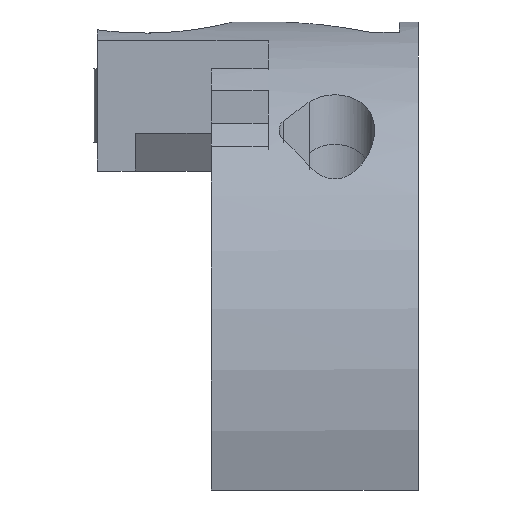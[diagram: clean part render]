
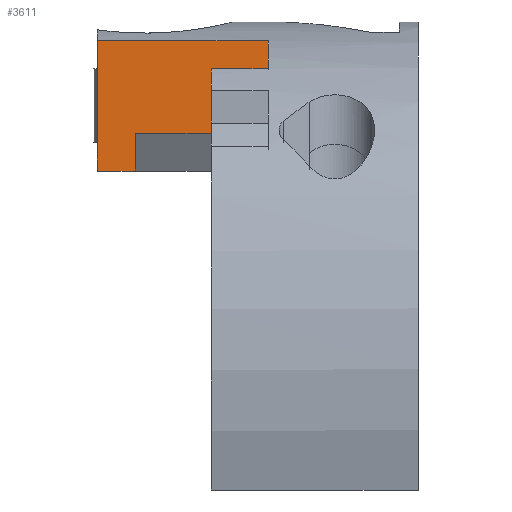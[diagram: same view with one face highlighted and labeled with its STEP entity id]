
A CAD part, front view. The second image highlights one B-rep face of the part: STEP entity #3611.
In plain terms, the highlighted planar face has unit normal (0, -1, 0).
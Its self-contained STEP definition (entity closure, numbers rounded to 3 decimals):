
#128 = PLANE('',#129);
#129 = AXIS2_PLACEMENT_3D('',#130,#131,#132);
#130 = CARTESIAN_POINT('',(185.,0.,0.));
#131 = DIRECTION('',(1.,0.,0.));
#132 = DIRECTION('',(-0.,0.,1.));
#271 = CYLINDRICAL_SURFACE('',#272,18.85);
#272 = AXIS2_PLACEMENT_3D('',#273,#274,#275);
#273 = CARTESIAN_POINT('',(194.,0.,0.));
#274 = DIRECTION('',(1.,0.,0.));
#275 = DIRECTION('',(-0.,0.,1.));
#1662 = PLANE('',#1663);
#1663 = AXIS2_PLACEMENT_3D('',#1664,#1665,#1666);
#1664 = CARTESIAN_POINT('',(185.,-6.,11.));
#1665 = DIRECTION('',(0.,0.,1.));
#1666 = DIRECTION('',(1.,0.,-0.));
#3070 = VERTEX_POINT('',#3071);
#3071 = CARTESIAN_POINT('',(185.,-6.,11.));
#3092 = EDGE_CURVE('',#3070,#3093,#3095,.T.);
#3093 = VERTEX_POINT('',#3094);
#3094 = CARTESIAN_POINT('',(187.,-6.,11.));
#3095 = SURFACE_CURVE('',#3096,(#3100,#3107),.PCURVE_S1.);
#3096 = LINE('',#3097,#3098);
#3097 = CARTESIAN_POINT('',(185.,-6.,11.));
#3098 = VECTOR('',#3099,1.);
#3099 = DIRECTION('',(1.,0.,-0.));
#3100 = PCURVE('',#1662,#3101);
#3101 = DEFINITIONAL_REPRESENTATION('',(#3102),#3106);
#3102 = LINE('',#3103,#3104);
#3103 = CARTESIAN_POINT('',(0.,0.));
#3104 = VECTOR('',#3105,1.);
#3105 = DIRECTION('',(1.,0.));
#3106 = ( GEOMETRIC_REPRESENTATION_CONTEXT(2) 
PARAMETRIC_REPRESENTATION_CONTEXT() REPRESENTATION_CONTEXT('2D SPACE',''
  ) );
#3107 = PCURVE('',#3108,#3113);
#3108 = PLANE('',#3109);
#3109 = AXIS2_PLACEMENT_3D('',#3110,#3111,#3112);
#3110 = CARTESIAN_POINT('',(185.,-6.,0.));
#3111 = DIRECTION('',(-0.,1.,0.));
#3112 = DIRECTION('',(0.,0.,1.));
#3113 = DEFINITIONAL_REPRESENTATION('',(#3114),#3118);
#3114 = LINE('',#3115,#3116);
#3115 = CARTESIAN_POINT('',(11.,0.));
#3116 = VECTOR('',#3117,1.);
#3117 = DIRECTION('',(0.,1.));
#3118 = ( GEOMETRIC_REPRESENTATION_CONTEXT(2) 
PARAMETRIC_REPRESENTATION_CONTEXT() REPRESENTATION_CONTEXT('2D SPACE',''
  ) );
#3136 = PLANE('',#3137);
#3137 = AXIS2_PLACEMENT_3D('',#3138,#3139,#3140);
#3138 = CARTESIAN_POINT('',(191.,-9.4,11.));
#3139 = DIRECTION('',(-0.648,-0.762,0.));
#3140 = DIRECTION('',(-0.762,0.648,0.));
#3611 = ADVANCED_FACE('',(#3612),#3108,.F.);
#3612 = FACE_BOUND('',#3613,.F.);
#3613 = EDGE_LOOP('',(#3614,#3644,#3671,#3699,#3720,#3721,#3744,#3766));
#3614 = ORIENTED_EDGE('',*,*,#3615,.T.);
#3615 = EDGE_CURVE('',#3616,#3618,#3620,.T.);
#3616 = VERTEX_POINT('',#3617);
#3617 = CARTESIAN_POINT('',(194.,-6.,15.746));
#3618 = VERTEX_POINT('',#3619);
#3619 = CARTESIAN_POINT('',(201.139,-6.,15.746));
#3620 = SURFACE_CURVE('',#3621,(#3625,#3632),.PCURVE_S1.);
#3621 = LINE('',#3622,#3623);
#3622 = CARTESIAN_POINT('',(194.,-6.,15.746));
#3623 = VECTOR('',#3624,1.);
#3624 = DIRECTION('',(1.,0.,0.));
#3625 = PCURVE('',#3108,#3626);
#3626 = DEFINITIONAL_REPRESENTATION('',(#3627),#3631);
#3627 = LINE('',#3628,#3629);
#3628 = CARTESIAN_POINT('',(15.746,9.));
#3629 = VECTOR('',#3630,1.);
#3630 = DIRECTION('',(0.,1.));
#3631 = ( GEOMETRIC_REPRESENTATION_CONTEXT(2) 
PARAMETRIC_REPRESENTATION_CONTEXT() REPRESENTATION_CONTEXT('2D SPACE',''
  ) );
#3632 = PCURVE('',#3633,#3638);
#3633 = CYLINDRICAL_SURFACE('',#3634,16.85);
#3634 = AXIS2_PLACEMENT_3D('',#3635,#3636,#3637);
#3635 = CARTESIAN_POINT('',(193.9,0.,0.));
#3636 = DIRECTION('',(1.,0.,0.));
#3637 = DIRECTION('',(-0.,0.,1.));
#3638 = DEFINITIONAL_REPRESENTATION('',(#3639),#3643);
#3639 = LINE('',#3640,#3641);
#3640 = CARTESIAN_POINT('',(6.647,0.1));
#3641 = VECTOR('',#3642,1.);
#3642 = DIRECTION('',(0.,1.));
#3643 = ( GEOMETRIC_REPRESENTATION_CONTEXT(2) 
PARAMETRIC_REPRESENTATION_CONTEXT() REPRESENTATION_CONTEXT('2D SPACE',''
  ) );
#3644 = ORIENTED_EDGE('',*,*,#3645,.T.);
#3645 = EDGE_CURVE('',#3618,#3646,#3648,.T.);
#3646 = VERTEX_POINT('',#3647);
#3647 = CARTESIAN_POINT('',(201.139,-6.,13.));
#3648 = SURFACE_CURVE('',#3649,(#3653,#3660),.PCURVE_S1.);
#3649 = LINE('',#3650,#3651);
#3650 = CARTESIAN_POINT('',(201.139,-6.,12.4));
#3651 = VECTOR('',#3652,1.);
#3652 = DIRECTION('',(-0.,0.,-1.));
#3653 = PCURVE('',#3108,#3654);
#3654 = DEFINITIONAL_REPRESENTATION('',(#3655),#3659);
#3655 = LINE('',#3656,#3657);
#3656 = CARTESIAN_POINT('',(12.4,16.139));
#3657 = VECTOR('',#3658,1.);
#3658 = DIRECTION('',(-1.,0.));
#3659 = ( GEOMETRIC_REPRESENTATION_CONTEXT(2) 
PARAMETRIC_REPRESENTATION_CONTEXT() REPRESENTATION_CONTEXT('2D SPACE',''
  ) );
#3660 = PCURVE('',#3661,#3666);
#3661 = PLANE('',#3662);
#3662 = AXIS2_PLACEMENT_3D('',#3663,#3664,#3665);
#3663 = CARTESIAN_POINT('',(194.,0.,11.9));
#3664 = DIRECTION('',(0.643,0.766,-0.));
#3665 = DIRECTION('',(0.766,-0.643,0.));
#3666 = DEFINITIONAL_REPRESENTATION('',(#3667),#3670);
#3667 = B_SPLINE_CURVE_WITH_KNOTS('',1,(#3668,#3669),.UNSPECIFIED.,.F.,
  .F.,(2,2),(-6.5,-0.5),.PIECEWISE_BEZIER_KNOTS.);
#3668 = CARTESIAN_POINT('',(9.325,-7.));
#3669 = CARTESIAN_POINT('',(9.325,-1.));
#3670 = ( GEOMETRIC_REPRESENTATION_CONTEXT(2) 
PARAMETRIC_REPRESENTATION_CONTEXT() REPRESENTATION_CONTEXT('2D SPACE',''
  ) );
#3671 = ORIENTED_EDGE('',*,*,#3672,.F.);
#3672 = EDGE_CURVE('',#3673,#3646,#3675,.T.);
#3673 = VERTEX_POINT('',#3674);
#3674 = CARTESIAN_POINT('',(187.,-6.,13.));
#3675 = SURFACE_CURVE('',#3676,(#3680,#3687),.PCURVE_S1.);
#3676 = LINE('',#3677,#3678);
#3677 = CARTESIAN_POINT('',(187.,-6.,13.));
#3678 = VECTOR('',#3679,1.);
#3679 = DIRECTION('',(1.,0.,0.));
#3680 = PCURVE('',#3108,#3681);
#3681 = DEFINITIONAL_REPRESENTATION('',(#3682),#3686);
#3682 = LINE('',#3683,#3684);
#3683 = CARTESIAN_POINT('',(13.,2.));
#3684 = VECTOR('',#3685,1.);
#3685 = DIRECTION('',(0.,1.));
#3686 = ( GEOMETRIC_REPRESENTATION_CONTEXT(2) 
PARAMETRIC_REPRESENTATION_CONTEXT() REPRESENTATION_CONTEXT('2D SPACE',''
  ) );
#3687 = PCURVE('',#3688,#3693);
#3688 = PLANE('',#3689);
#3689 = AXIS2_PLACEMENT_3D('',#3690,#3691,#3692);
#3690 = CARTESIAN_POINT('',(191.,-11.3,13.));
#3691 = DIRECTION('',(0.,0.,1.));
#3692 = DIRECTION('',(1.,0.,-0.));
#3693 = DEFINITIONAL_REPRESENTATION('',(#3694),#3698);
#3694 = LINE('',#3695,#3696);
#3695 = CARTESIAN_POINT('',(-4.,5.3));
#3696 = VECTOR('',#3697,1.);
#3697 = DIRECTION('',(1.,0.));
#3698 = ( GEOMETRIC_REPRESENTATION_CONTEXT(2) 
PARAMETRIC_REPRESENTATION_CONTEXT() REPRESENTATION_CONTEXT('2D SPACE',''
  ) );
#3699 = ORIENTED_EDGE('',*,*,#3700,.F.);
#3700 = EDGE_CURVE('',#3093,#3673,#3701,.T.);
#3701 = SURFACE_CURVE('',#3702,(#3706,#3713),.PCURVE_S1.);
#3702 = LINE('',#3703,#3704);
#3703 = CARTESIAN_POINT('',(187.,-6.,11.));
#3704 = VECTOR('',#3705,1.);
#3705 = DIRECTION('',(0.,0.,1.));
#3706 = PCURVE('',#3108,#3707);
#3707 = DEFINITIONAL_REPRESENTATION('',(#3708),#3712);
#3708 = LINE('',#3709,#3710);
#3709 = CARTESIAN_POINT('',(11.,2.));
#3710 = VECTOR('',#3711,1.);
#3711 = DIRECTION('',(1.,0.));
#3712 = ( GEOMETRIC_REPRESENTATION_CONTEXT(2) 
PARAMETRIC_REPRESENTATION_CONTEXT() REPRESENTATION_CONTEXT('2D SPACE',''
  ) );
#3713 = PCURVE('',#3136,#3714);
#3714 = DEFINITIONAL_REPRESENTATION('',(#3715),#3719);
#3715 = LINE('',#3716,#3717);
#3716 = CARTESIAN_POINT('',(5.25,0.));
#3717 = VECTOR('',#3718,1.);
#3718 = DIRECTION('',(0.,-1.));
#3719 = ( GEOMETRIC_REPRESENTATION_CONTEXT(2) 
PARAMETRIC_REPRESENTATION_CONTEXT() REPRESENTATION_CONTEXT('2D SPACE',''
  ) );
#3720 = ORIENTED_EDGE('',*,*,#3092,.F.);
#3721 = ORIENTED_EDGE('',*,*,#3722,.T.);
#3722 = EDGE_CURVE('',#3070,#3723,#3725,.T.);
#3723 = VERTEX_POINT('',#3724);
#3724 = CARTESIAN_POINT('',(185.,-6.,17.87));
#3725 = SURFACE_CURVE('',#3726,(#3730,#3737),.PCURVE_S1.);
#3726 = LINE('',#3727,#3728);
#3727 = CARTESIAN_POINT('',(185.,-6.,11.));
#3728 = VECTOR('',#3729,1.);
#3729 = DIRECTION('',(0.,0.,1.));
#3730 = PCURVE('',#3108,#3731);
#3731 = DEFINITIONAL_REPRESENTATION('',(#3732),#3736);
#3732 = LINE('',#3733,#3734);
#3733 = CARTESIAN_POINT('',(11.,0.));
#3734 = VECTOR('',#3735,1.);
#3735 = DIRECTION('',(1.,0.));
#3736 = ( GEOMETRIC_REPRESENTATION_CONTEXT(2) 
PARAMETRIC_REPRESENTATION_CONTEXT() REPRESENTATION_CONTEXT('2D SPACE',''
  ) );
#3737 = PCURVE('',#128,#3738);
#3738 = DEFINITIONAL_REPRESENTATION('',(#3739),#3743);
#3739 = LINE('',#3740,#3741);
#3740 = CARTESIAN_POINT('',(11.,6.));
#3741 = VECTOR('',#3742,1.);
#3742 = DIRECTION('',(1.,0.));
#3743 = ( GEOMETRIC_REPRESENTATION_CONTEXT(2) 
PARAMETRIC_REPRESENTATION_CONTEXT() REPRESENTATION_CONTEXT('2D SPACE',''
  ) );
#3744 = ORIENTED_EDGE('',*,*,#3745,.T.);
#3745 = EDGE_CURVE('',#3723,#3746,#3748,.T.);
#3746 = VERTEX_POINT('',#3747);
#3747 = CARTESIAN_POINT('',(194.,-6.,17.87));
#3748 = SURFACE_CURVE('',#3749,(#3753,#3760),.PCURVE_S1.);
#3749 = LINE('',#3750,#3751);
#3750 = CARTESIAN_POINT('',(185.,-6.,17.87));
#3751 = VECTOR('',#3752,1.);
#3752 = DIRECTION('',(1.,0.,0.));
#3753 = PCURVE('',#3108,#3754);
#3754 = DEFINITIONAL_REPRESENTATION('',(#3755),#3759);
#3755 = LINE('',#3756,#3757);
#3756 = CARTESIAN_POINT('',(17.87,0.));
#3757 = VECTOR('',#3758,1.);
#3758 = DIRECTION('',(0.,1.));
#3759 = ( GEOMETRIC_REPRESENTATION_CONTEXT(2) 
PARAMETRIC_REPRESENTATION_CONTEXT() REPRESENTATION_CONTEXT('2D SPACE',''
  ) );
#3760 = PCURVE('',#271,#3761);
#3761 = DEFINITIONAL_REPRESENTATION('',(#3762),#3765);
#3762 = B_SPLINE_CURVE_WITH_KNOTS('',1,(#3763,#3764),.UNSPECIFIED.,.F.,
  .F.,(2,2),(0.,9.),.PIECEWISE_BEZIER_KNOTS.);
#3763 = CARTESIAN_POINT('',(0.324,-9.));
#3764 = CARTESIAN_POINT('',(0.324,0.));
#3765 = ( GEOMETRIC_REPRESENTATION_CONTEXT(2) 
PARAMETRIC_REPRESENTATION_CONTEXT() REPRESENTATION_CONTEXT('2D SPACE',''
  ) );
#3766 = ORIENTED_EDGE('',*,*,#3767,.T.);
#3767 = EDGE_CURVE('',#3746,#3616,#3768,.T.);
#3768 = SURFACE_CURVE('',#3769,(#3773,#3780),.PCURVE_S1.);
#3769 = LINE('',#3770,#3771);
#3770 = CARTESIAN_POINT('',(194.,-6.,17.87));
#3771 = VECTOR('',#3772,1.);
#3772 = DIRECTION('',(0.,0.,-1.));
#3773 = PCURVE('',#3108,#3774);
#3774 = DEFINITIONAL_REPRESENTATION('',(#3775),#3779);
#3775 = LINE('',#3776,#3777);
#3776 = CARTESIAN_POINT('',(17.87,9.));
#3777 = VECTOR('',#3778,1.);
#3778 = DIRECTION('',(-1.,0.));
#3779 = ( GEOMETRIC_REPRESENTATION_CONTEXT(2) 
PARAMETRIC_REPRESENTATION_CONTEXT() REPRESENTATION_CONTEXT('2D SPACE',''
  ) );
#3780 = PCURVE('',#3781,#3786);
#3781 = PLANE('',#3782);
#3782 = AXIS2_PLACEMENT_3D('',#3783,#3784,#3785);
#3783 = CARTESIAN_POINT('',(194.,0.,0.));
#3784 = DIRECTION('',(1.,0.,0.));
#3785 = DIRECTION('',(-0.,0.,1.));
#3786 = DEFINITIONAL_REPRESENTATION('',(#3787),#3791);
#3787 = LINE('',#3788,#3789);
#3788 = CARTESIAN_POINT('',(17.87,6.));
#3789 = VECTOR('',#3790,1.);
#3790 = DIRECTION('',(-1.,0.));
#3791 = ( GEOMETRIC_REPRESENTATION_CONTEXT(2) 
PARAMETRIC_REPRESENTATION_CONTEXT() REPRESENTATION_CONTEXT('2D SPACE',''
  ) );
